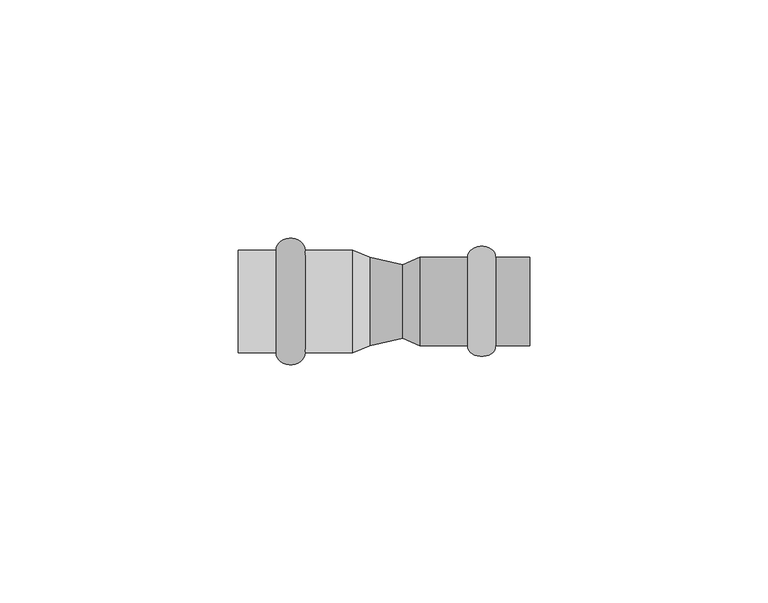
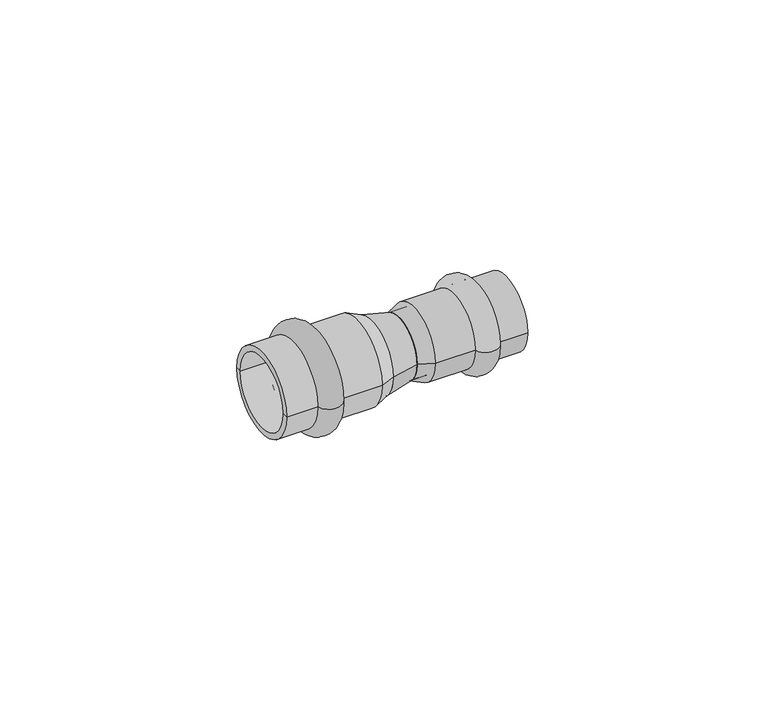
"""IFC4 building model written with IfcOpenShell, lengths in millimetres: pipe fitting geometry, РЕХАУ_Пресс Муфта переходная : Муфта переходная."""

from ifc_helpers import new_model, si_unit, point, frame, origin, origin_2d, place, context, project, spatial, polyline, circle_curve, ellipse_curve, trimmed, segment, composite_curve, outline, extrude, source, transform, mapped, element, save
from ifc_brep_helpers import plane_surface, cylinder_surface, revolved_surface, advanced_brep


def pipe_fitting_340ce223(model_context):
    return source(origin(), model_context, "Body", "SolidModel", [
        advanced_brep(
        [(30.0, 9.25, 0.0), (30.0, -9.25, 0.0), (24.1, -9.25, 0.0), (24.1, 9.25, 0.0)],
        [
            (0, 1, circle_curve(frame((30.0, 0.0, 0.0), z_axis=(1.0, 0.0, 0.0), x_axis=(0.0, -1.0, 0.0)), 9.25)),
            (1, 2),
            (2, 3, circle_curve(frame((24.1, 0.0, 0.0), z_axis=(-1.0, 0.0, 0.0), x_axis=(0.0, -1.0, 0.0)), 9.25)),
            (3, 0),
            (1, 0, circle_curve(frame((30.0, 0.0, 0.0), z_axis=(1.0, 0.0, 0.0), x_axis=(0.0, -1.0, 0.0)), 9.25)),
            (3, 2, circle_curve(frame((24.1, 0.0, 0.0), z_axis=(-1.0, 0.0, 0.0), x_axis=(0.0, -1.0, 0.0)), 9.25)),
            (2, 1, ellipse_curve(frame((27.05, -9.25, 0.0), z_axis=(0.0, 0.0, 1.0), x_axis=(1.0, 0.0, 0.0)), 2.95, 2.3)),
            (0, 3, ellipse_curve(frame((27.05, 9.25, 0.0), z_axis=(0.0, 0.0, 1.0), x_axis=(1.0, 0.0, 0.0)), 2.95, 2.3)),
        ],
        [
            revolved_surface(polyline([(24.1, -9.25, 0.0), (30.0, -9.25, 0.0)]), (11.1, 0.0, 0.0), (-1.0, 0.0, 0.0)),
            revolved_surface(trimmed(ellipse_curve(frame((27.05, -9.25, 0.0), z_axis=(0.0, 0.0, -1.0), x_axis=(1.0, 0.0, 0.0)), 2.95, 2.3), [point((30.0, -9.25, 0.0))], [point((24.1, -9.25, 0.0))], True, "CARTESIAN"), (11.1, 0.0, 0.0), (-1.0, 0.0, 0.0)),
        ],
        [
            (0, [[1, 2, 3, 4]]),
            (0, [[5, -4, 6, -2]]),
            (1, [[-3, 7, -1, 8]]),
            (1, [[-6, -8, -5, -7]]),
        ],
    ),
        advanced_brep(
        [(10.4662215, 7.75, 0.0), (10.4662215, -7.75, 0.0), (14.0, -9.25, 0.0), (14.0, 9.25, 0.0), (37.1, 7.75, 0.0), (37.1, -7.75, 0.0), (37.1, 9.25, 0.0), (37.1, -9.25, 0.0)],
        [
            (0, 1, circle_curve(frame((10.4662215, 0.0, 0.0), z_axis=(1.0, 0.0, 0.0), x_axis=(0.0, -1.0, 0.0)), 7.75)),
            (1, 2),
            (2, 3, circle_curve(frame((14.0, 0.0, 0.0), z_axis=(-1.0, 0.0, 0.0), x_axis=(0.0, -1.0, 0.0)), 9.25)),
            (3, 0),
            (1, 0, circle_curve(frame((10.4662215, 0.0, 0.0), z_axis=(1.0, 0.0, 0.0), x_axis=(0.0, -1.0, 0.0)), 7.75)),
            (3, 2, circle_curve(frame((14.0, 0.0, 0.0), z_axis=(-1.0, 0.0, 0.0), x_axis=(0.0, -1.0, 0.0)), 9.25)),
            (4, 5, circle_curve(frame((37.1, 0.0, 0.0), z_axis=(1.0, 0.0, 0.0), x_axis=(0.0, -1.0, 0.0)), 7.75)),
            (5, 1),
            (0, 4),
            (5, 4, circle_curve(frame((37.1, 0.0, 0.0), z_axis=(1.0, 0.0, 0.0), x_axis=(0.0, -1.0, 0.0)), 7.75)),
            (6, 7, circle_curve(frame((37.1, 0.0, 0.0), z_axis=(1.0, 0.0, 0.0), x_axis=(0.0, -1.0, 0.0)), 9.25)),
            (7, 5),
            (4, 6),
            (7, 6, circle_curve(frame((37.1, 0.0, 0.0), z_axis=(1.0, 0.0, 0.0), x_axis=(0.0, -1.0, 0.0)), 9.25)),
            (2, 7),
            (6, 3),
        ],
        [
            revolved_surface(polyline([(14.0, -9.25, 0.0), (10.4662215, -7.75, 0.0)]), (11.1, 0.0, 0.0), (-1.0, 0.0, 0.0)),
            revolved_surface(polyline([(10.4662215, -7.75, 0.0), (37.1, -7.75, 0.0)]), (11.1, 0.0, 0.0), (-1.0, 0.0, 0.0)),
            plane_surface(frame((37.1, 0.0, 0.0), z_axis=(1.0, 0.0, 0.0), x_axis=(0.0, -1.0, 0.0))),
            cylinder_surface(frame((11.1, 0.0, 0.0), z_axis=(-1.0, 0.0, 0.0), x_axis=(0.0, -1.0, 0.0)), 9.25),
        ],
        [
            (0, [[1, 2, 3, 4]]),
            (0, [[5, -4, 6, -2]]),
            (1, [[7, 8, -1, 9]]),
            (1, [[10, -9, -5, -8]]),
            (2, [[11, 12, -7, 13]]),
            (2, [[14, -13, -10, -12]]),
            (3, [[-3, 15, -11, 16]]),
            (3, [[-6, -16, -14, -15]]),
        ],
    ),
        advanced_brep(
        [(-16.1, 10.75, 0.0), (-16.1, -10.75, 0.0), (-10.0, -10.75, 0.0), (-10.0, 10.75, 0.0)],
        [
            (0, 1, circle_curve(frame((-16.1, 0.0, 0.0), z_axis=(-1.0, 0.0, 0.0), x_axis=(0.0, -1.0, 0.0)), 10.75)),
            (1, 2),
            (2, 3, circle_curve(frame((-10.0, 0.0, 0.0), z_axis=(1.0, 0.0, 0.0), x_axis=(0.0, -1.0, 0.0)), 10.75)),
            (3, 0),
            (1, 0, circle_curve(frame((-16.1, 0.0, 0.0), z_axis=(-1.0, 0.0, 0.0), x_axis=(0.0, -1.0, 0.0)), 10.75)),
            (3, 2, circle_curve(frame((-10.0, 0.0, 0.0), z_axis=(1.0, 0.0, 0.0), x_axis=(0.0, -1.0, 0.0)), 10.75)),
            (2, 1, ellipse_curve(frame((-13.05, -10.75, 0.0), z_axis=(0.0, 0.0, -1.0), x_axis=(-1.0, 0.0, 0.0)), 3.05, 2.5)),
            (0, 3, ellipse_curve(frame((-13.05, 10.75, 0.0), z_axis=(0.0, 0.0, -1.0), x_axis=(-1.0, 0.0, 0.0)), 3.05, 2.5)),
        ],
        [
            revolved_surface(polyline([(-10.0, -10.75, 0.0), (-16.1, -10.75, 0.0)]), (3.0, 0.0, 0.0), (1.0, 0.0, 0.0)),
            revolved_surface(trimmed(ellipse_curve(frame((-13.05, -10.75, 0.0), z_axis=(0.0, 0.0, 1.0), x_axis=(-1.0, 0.0, 0.0)), 3.05, 2.5), [point((-16.1, -10.75, 0.0))], [point((-10.0, -10.75, 0.0))], True, "CARTESIAN"), (3.0, 0.0, 0.0), (1.0, 0.0, 0.0)),
        ],
        [
            (0, [[1, 2, 3, 4]]),
            (0, [[5, -4, 6, -2]]),
            (1, [[-3, 7, -1, 8]]),
            (1, [[-6, -8, -5, -7]]),
        ],
    ),
        advanced_brep(
        [(3.5337785, 9.25, 0.0), (3.5337785, -9.25, 0.0), (0.0, -10.75, 0.0), (0.0, 10.75, 0.0), (-24.0, 9.25, 0.0), (-24.0, -9.25, 0.0), (-24.0, 10.75, 0.0), (-24.0, -10.75, 0.0)],
        [
            (0, 1, circle_curve(frame((3.5337785, 0.0, 0.0), z_axis=(-1.0, 0.0, 0.0), x_axis=(0.0, -1.0, 0.0)), 9.25)),
            (1, 2),
            (2, 3, circle_curve(frame((0.0, 0.0, 0.0), z_axis=(1.0, 0.0, 0.0), x_axis=(0.0, -1.0, 0.0)), 10.75)),
            (3, 0),
            (1, 0, circle_curve(frame((3.5337785, 0.0, 0.0), z_axis=(-1.0, 0.0, 0.0), x_axis=(0.0, -1.0, 0.0)), 9.25)),
            (3, 2, circle_curve(frame((0.0, 0.0, 0.0), z_axis=(1.0, 0.0, 0.0), x_axis=(0.0, -1.0, 0.0)), 10.75)),
            (4, 5, circle_curve(frame((-24.0, 0.0, 0.0), z_axis=(-1.0, 0.0, 0.0), x_axis=(0.0, -1.0, 0.0)), 9.25)),
            (5, 1),
            (0, 4),
            (5, 4, circle_curve(frame((-24.0, 0.0, 0.0), z_axis=(-1.0, 0.0, 0.0), x_axis=(0.0, -1.0, 0.0)), 9.25)),
            (6, 7, circle_curve(frame((-24.0, 0.0, 0.0), z_axis=(-1.0, 0.0, 0.0), x_axis=(0.0, -1.0, 0.0)), 10.75)),
            (7, 5),
            (4, 6),
            (7, 6, circle_curve(frame((-24.0, 0.0, 0.0), z_axis=(-1.0, 0.0, 0.0), x_axis=(0.0, -1.0, 0.0)), 10.75)),
            (2, 7),
            (6, 3),
        ],
        [
            revolved_surface(polyline([(0.0, -10.75, 0.0), (3.5337785, -9.25, 0.0)]), (3.0, 0.0, 0.0), (1.0, 0.0, 0.0)),
            revolved_surface(polyline([(3.5337785, -9.25, 0.0), (-24.0, -9.25, 0.0)]), (3.0, 0.0, 0.0), (1.0, 0.0, 0.0)),
            plane_surface(frame((-24.0, 0.0, 0.0), z_axis=(-1.0, 0.0, 0.0), x_axis=(0.0, -1.0, 0.0))),
            cylinder_surface(frame((3.0, 0.0, 0.0), z_axis=(1.0, 0.0, 0.0), x_axis=(0.0, -1.0, 0.0)), 10.75),
        ],
        [
            (0, [[1, 2, 3, 4]]),
            (0, [[5, -4, 6, -2]]),
            (1, [[7, 8, -1, 9]]),
            (1, [[10, -9, -5, -8]]),
            (2, [[11, 12, -7, 13]]),
            (2, [[14, -13, -10, -12]]),
            (3, [[-3, 15, -11, 16]]),
            (3, [[-6, -16, -14, -15]]),
        ],
    ),
        extrude(outline(composite_curve([segment(trimmed(circle_curve(origin_2d(), 7.75), [point((-7.75, 0.0))], [point((7.75, 0.0))], False, "CARTESIAN"), True, "CONTINUOUS"), segment(trimmed(circle_curve(origin_2d(), 7.75), [point((7.75, 0.0))], [point((-7.75, 0.0))], False, "CARTESIAN"), True, "CONTINUOUS")], self_intersect=False)), frame((10.4662215, 0.0, 0.0), z_axis=(1.0, 0.0, 0.0), x_axis=(0.0, 1.0, 0.0)), (0.0, 0.0, 1.0), 3.5337785),
        extrude(outline(composite_curve([segment(trimmed(circle_curve(origin_2d(), 9.25), [point((-9.25, 0.0))], [point((9.25, 0.0))], False, "CARTESIAN"), True, "CONTINUOUS"), segment(trimmed(circle_curve(origin_2d(), 9.25), [point((9.25, 0.0))], [point((-9.25, 0.0))], False, "CARTESIAN"), True, "CONTINUOUS")], self_intersect=False)), frame((0.0, 0.0, 0.0), z_axis=(1.0, 0.0, 0.0), x_axis=(0.0, 1.0, 0.0)), (0.0, 0.0, 1.0), 3.5337785),
        advanced_brep(
        [(10.4662215, -7.75, 0.0), (10.4662215, 7.75, 0.0), (3.5337785, -9.25, 0.0), (3.5337785, 9.25, 0.0)],
        [
            (0, 1, circle_curve(frame((10.4662215, 0.0, 0.0), z_axis=(1.0, 0.0, 0.0), x_axis=(0.0, -1.0, 0.0)), 7.75)),
            (1, 0, circle_curve(frame((10.4662215, 0.0, 0.0), z_axis=(1.0, 0.0, 0.0), x_axis=(0.0, 1.0, 0.0)), 7.75)),
            (2, 3, circle_curve(frame((3.5337785, 0.0, 0.0), z_axis=(-1.0, 0.0, 0.0), x_axis=(0.0, 1.0, 0.0)), 9.25)),
            (3, 2, circle_curve(frame((3.5337785, 0.0, 0.0), z_axis=(-1.0, 0.0, 0.0), x_axis=(0.0, -1.0, 0.0)), 9.25)),
            (3, 1),
            (0, 2),
        ],
        [
            plane_surface(frame((10.4662215, 0.0, 0.0), z_axis=(1.0, 0.0, 0.0), x_axis=(0.0, 0.0, -1.0))),
            plane_surface(frame((3.5337785, 0.0, 0.0), z_axis=(-1.0, 0.0, 0.0), x_axis=(0.0, 0.0, -1.0))),
            revolved_surface(polyline([(10.466221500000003, -7.749999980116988, 0.0), (3.533778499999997, -9.25, 0.0)]), (46.2838431, 0.0, 0.0), (-1.0, 0.0, 0.0)),
            revolved_surface(polyline([(10.466221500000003, 7.749999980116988, 0.0), (3.533778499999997, 9.25, 0.0)]), (46.2838431, 0.0, 0.0), (-1.0, 0.0, 0.0)),
        ],
        [
            (0, [[1, 2]]),
            (1, [[3, 4]]),
            (2, [[-4, 5, -1, 6]]),
            (3, [[-3, -6, -2, -5]]),
        ],
    ),
    ])


if __name__ == "__main__":
    model = new_model("IFC4")
    model_context = context("Model", 3, world=origin())
    ifc_project = project(units=[si_unit("LENGTHUNIT", "METRE", prefix="MILLI")], contexts=[model_context])
    site = spatial("IfcSite", under=ifc_project)
    building = spatial("IfcBuilding", under=site)
    placement = place(None, origin())
    pipe_fitting_shape = pipe_fitting_340ce223(model_context)
    element("IfcPipeFitting", 1, ObjectType="РЕХАУ_Пресс Муфта переходная : Муфта переходная", at=placement, inside=building, context=model_context, shape_type="MappedRepresentation", body=[
        mapped(pipe_fitting_shape, transform((0.0, 0.0, 0.0), x_axis=(1.0, 0.0, 0.0), y_axis=(0.0, 1.0, 0.0), z_axis=(0.0, 0.0, 1.0))),
    ])
    save(model, "model.ifc")
